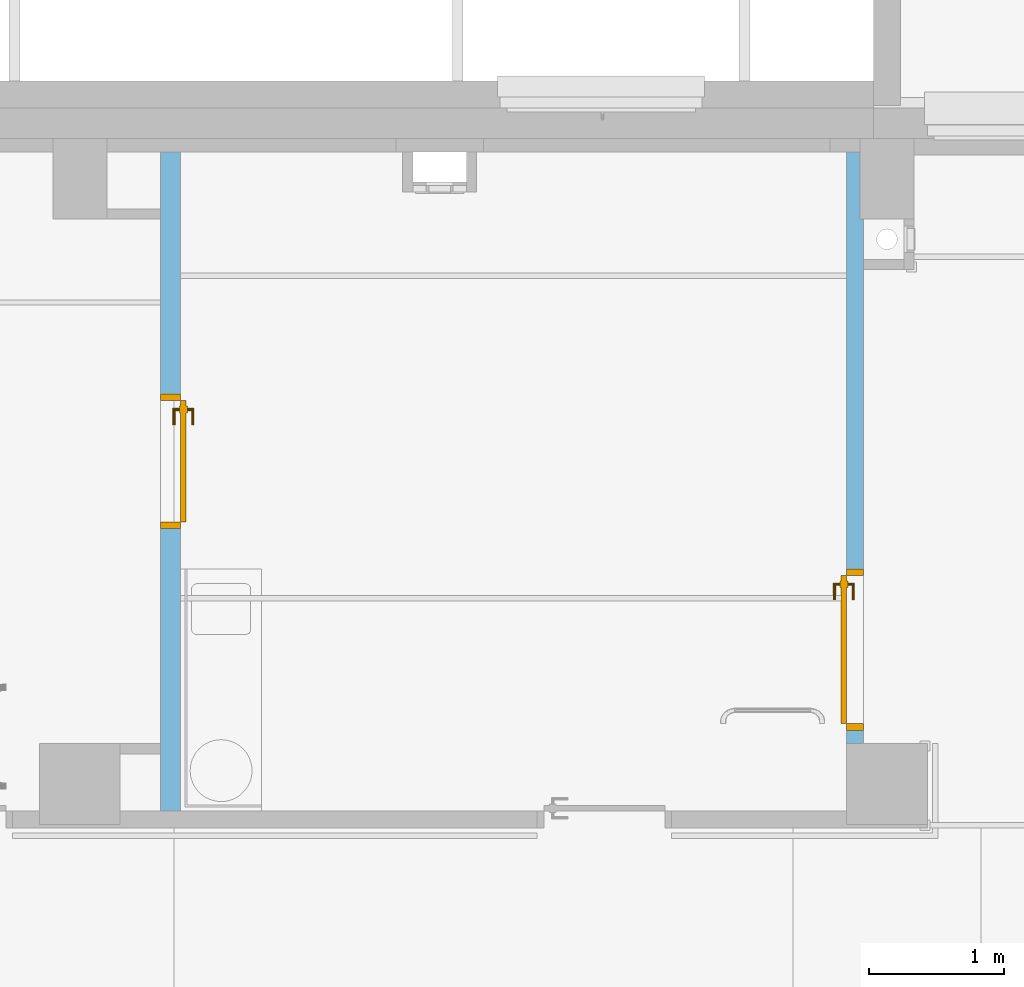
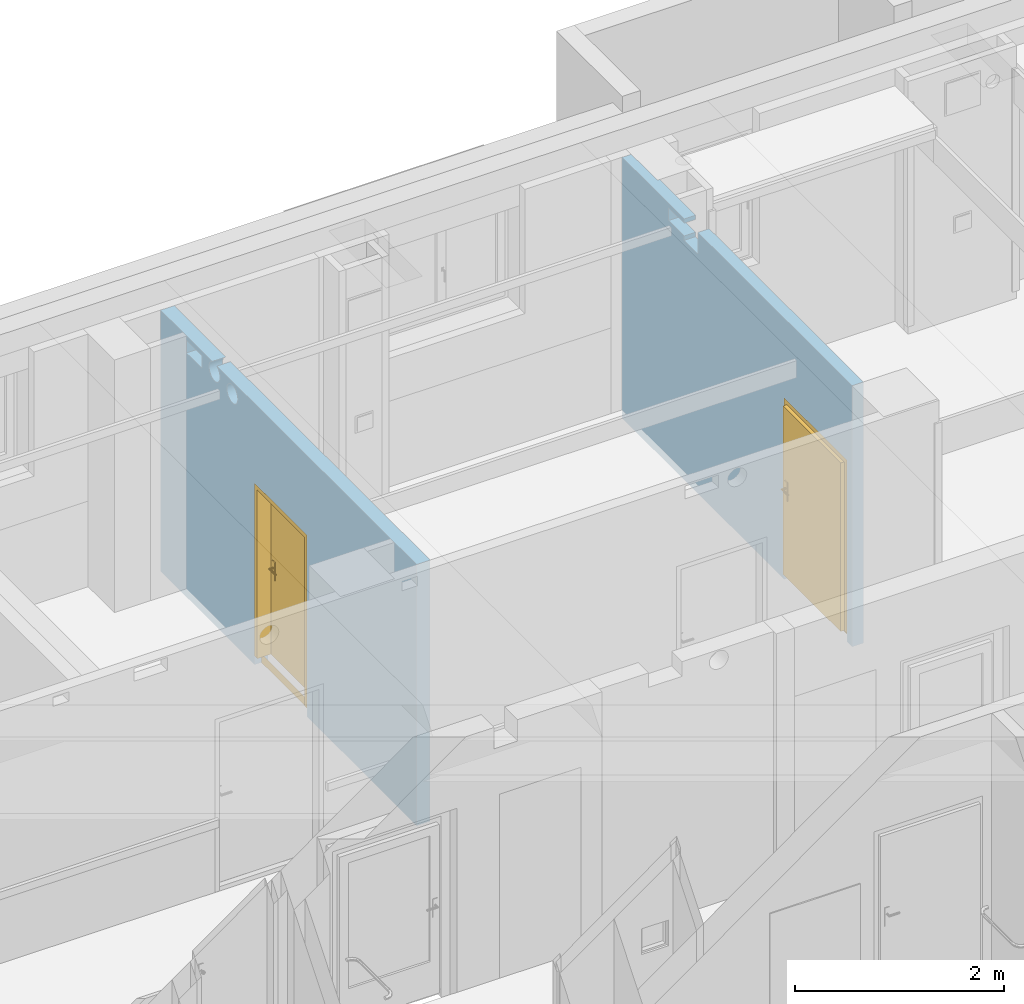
# One storey, part 62 of 84: 2 doors, 8 openings, plus 2 elements that do not belong to this part.
"""IFC4 building model written with IfcOpenShell, lengths in metres."""

from ifc_helpers import new_model, entity, si_unit, converted_unit, derived_unit, frame, frame_2d, origin, origin_with_axes, place, context, subcontext, project, spatial, polyline, rectangle, outline, extrude, closed_shell, open_shell, surface_model, source, transform, mapped, material, layer, layer_set, layer_usage, type_object, element, fill, save


model = new_model("IFC4")

# Units and contexts
model_context = context("Model", 3, precision=1e-05, world=origin())
body_context = subcontext(model_context, "Body", "Model", "MODEL_VIEW")
ifc_project = project(units=[si_unit("LENGTHUNIT", "METRE"), si_unit("AREAUNIT", "SQUARE_METRE"), si_unit("VOLUMEUNIT", "CUBIC_METRE"), si_unit("MASSUNIT", "GRAM", prefix="KILO"), converted_unit("PLANEANGLEUNIT", "DEGREE", entity("IfcPlaneAngleMeasure", 0.0174532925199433), si_unit("PLANEANGLEUNIT", "RADIAN"), dimensions=[0, 0, 0, 0, 0, 0, 0]), derived_unit("THERMALTRANSMITTANCEUNIT", [(si_unit("POWERUNIT", "WATT"), 1), (si_unit("THERMODYNAMICTEMPERATUREUNIT", "KELVIN"), -1), (si_unit("LENGTHUNIT", "METRE"), -2)]), derived_unit("VOLUMETRICFLOWRATEUNIT", [(si_unit("LENGTHUNIT", "METRE"), 3), (converted_unit("TIMEUNIT", "hour", entity("IfcTimeMeasure", 3600.0), si_unit("TIMEUNIT", "SECOND"), dimensions=[0, 0, 1, 0, 0, 0, 0]), -1), (si_unit("LENGTHUNIT", "METRE"), -1)])], contexts=[model_context])

# Site, building, storey
site_placement = place(None, origin())
site = spatial("IfcSite", under=ifc_project, at=site_placement, Name="3. ASŘ", CompositionType="ELEMENT")
building_placement = place(site_placement, origin())
building = spatial("IfcBuilding", under=site, at=building_placement, Name="Pavilon C", CompositionType="ELEMENT")
storey_placement = place(building_placement, frame((0.0, 0.0, -3.3)))
storey = spatial("IfcBuildingStorey", under=building, at=storey_placement, Name="Půdorys 1.PP", CompositionType="ELEMENT", Elevation=-3.3)

# Wall, openings, door
ifc_material_1 = material(Name="SDK - 1 KCE + DVOJITÉ OPLÁŠTĚNÍ")
ifc_layer_1 = layer(ifc_material_1, 0.15)
ifc_layer_set_1 = layer_set([ifc_layer_1])
ifc_layer_usage_1 = layer_usage(ifc_layer_set_1, "AXIS2", "POSITIVE", 0.0)
wall_1_placement = place(storey_placement, frame((6.6, 14.9, -0.1), z_axis=(0.0, 0.0, 1.0), x_axis=(0.0, -1.0, 0.0)))
wall_1 = element("IfcWall", 1, at=wall_1_placement, inside=storey, material=ifc_layer_usage_1, Name="SDK - 1 KCE + DVOJITÉ OPLÁŠTĚNÍ", context=body_context, shape_type="SweptSolid", body=[
    extrude(rectangle(XDim=4.9, YDim=0.15, at=frame_2d((2.45, 0.075), x_axis=(1.0, 0.0))), origin_with_axes(), (0.0, 0.0, 1.0), 3.05),
])
opening_1_placement = place(wall_1_placement, frame((0.794222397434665, 0.15, 2.85), z_axis=(0.0, -1.0, 0.0), x_axis=(0.0, 0.0, 1.0)))
element("IfcOpeningElement", 2, at=opening_1_placement, cuts=wall_1, Name="UT", ObjectType="Opening", context=body_context, shape_type="SweptSolid", body=[
    extrude(outline(polyline([(0.0, 0.3), (0.15, 0.3), (0.15, 0.0), (0.0, 0.0), (0.0, 0.3)])), origin_with_axes(), (0.0, 0.0, 1.0), 0.15),
])
opening_2_placement = place(wall_1_placement, frame((1.13749770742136, 0.15, 2.85), z_axis=(0.0, -1.0, 0.0), x_axis=(0.0, 0.0, 1.0)))
element("IfcOpeningElement", 3, at=opening_2_placement, cuts=wall_1, Name="VZT", ObjectType="Opening", context=body_context, shape_type="SweptSolid", body=[
    extrude(outline(polyline([(0.104999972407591, 0.0), (0.0940244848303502, 0.000575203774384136), (0.0831692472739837, 0.00229450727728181), (0.0725531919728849, 0.00513907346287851), (0.0622926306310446, 0.00907773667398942), (0.052499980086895, 0.0140673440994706), (0.0432825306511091, 0.0200532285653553), (0.0347412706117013, 0.0269698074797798), (0.026969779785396, 0.0347413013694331), (0.0200532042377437, 0.0432825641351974), (0.0140673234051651, 0.0525000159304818), (0.00907771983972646, 0.0622926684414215), (0.0051390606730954, 0.0725532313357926), (0.00229449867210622, 0.0831692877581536), (0.000575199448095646, 0.0940245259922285), (0.0, 0.105000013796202), (0.000575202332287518, 0.11597550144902), (0.00229450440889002, 0.126830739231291), (0.00513906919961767, 0.137446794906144), (0.00907773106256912, 0.147707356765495), (0.0140673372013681, 0.157500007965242), (0.0200532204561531, 0.166717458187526), (0.0269697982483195, 0.175258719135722), (0.0347412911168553, 0.183030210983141), (0.0432825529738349, 0.189946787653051), (0.0525000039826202, 0.195932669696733), (0.0622926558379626, 0.200922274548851), (0.0725532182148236, 0.204860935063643), (0.0831692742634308, 0.207705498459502), (0.0940245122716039, 0.209424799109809), (0.104999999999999, 0.21), (0.115975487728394, 0.209424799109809), (0.126830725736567, 0.207705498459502), (0.137446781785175, 0.204860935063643), (0.147707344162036, 0.200922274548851), (0.157499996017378, 0.195932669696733), (0.166717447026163, 0.189946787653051), (0.175258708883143, 0.183030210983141), (0.183030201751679, 0.175258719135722), (0.189946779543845, 0.166717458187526), (0.19593266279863, 0.157500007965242), (0.200922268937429, 0.147707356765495), (0.20486093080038, 0.137446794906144), (0.207705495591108, 0.126830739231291), (0.209424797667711, 0.11597550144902), (0.209999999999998, 0.105000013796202), (0.209424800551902, 0.0940245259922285), (0.207705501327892, 0.0831692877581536), (0.204860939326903, 0.0725532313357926), (0.200922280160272, 0.0622926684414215), (0.195932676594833, 0.0525000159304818), (0.189946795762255, 0.0432825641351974), (0.183030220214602, 0.0347413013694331), (0.175258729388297, 0.0269698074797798), (0.166717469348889, 0.0200532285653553), (0.157500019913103, 0.0140673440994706), (0.147707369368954, 0.00907773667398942), (0.137446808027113, 0.00513907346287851), (0.126830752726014, 0.00229450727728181), (0.115975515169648, 0.000575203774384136), (0.104999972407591, 0.0)])), origin_with_axes(), (0.0, 0.0, 1.0), 0.15),
])
opening_3_placement = place(wall_1_placement, frame((1.47799075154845, 0.15, 2.8), z_axis=(0.0, -1.0, 0.0), x_axis=(0.0, 0.0, 1.0)))
element("IfcOpeningElement", 4, at=opening_3_placement, cuts=wall_1, Name="VZT", ObjectType="Opening", context=body_context, shape_type="SweptSolid", body=[
    extrude(outline(polyline([(0.104999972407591, 0.0), (0.0940244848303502, 0.000575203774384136), (0.0831692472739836, 0.00229450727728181), (0.0725531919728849, 0.00513907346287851), (0.0622926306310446, 0.00907773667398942), (0.052499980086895, 0.0140673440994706), (0.043282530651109, 0.0200532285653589), (0.0347412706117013, 0.0269698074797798), (0.026969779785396, 0.0347413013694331), (0.0200532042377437, 0.0432825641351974), (0.0140673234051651, 0.0525000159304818), (0.00907771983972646, 0.0622926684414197), (0.0051390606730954, 0.0725532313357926), (0.00229449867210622, 0.0831692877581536), (0.000575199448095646, 0.0940245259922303), (0.0, 0.105000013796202), (0.000575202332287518, 0.11597550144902), (0.00229450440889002, 0.126830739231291), (0.00513906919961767, 0.137446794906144), (0.00907773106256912, 0.147707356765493), (0.0140673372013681, 0.15750000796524), (0.0200532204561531, 0.166717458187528), (0.0269697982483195, 0.175258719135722), (0.0347412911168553, 0.183030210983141), (0.0432825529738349, 0.189946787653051), (0.0525000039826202, 0.195932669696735), (0.0622926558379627, 0.200922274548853), (0.0725532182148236, 0.204860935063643), (0.0831692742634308, 0.207705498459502), (0.0940245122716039, 0.209424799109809), (0.104999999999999, 0.21), (0.115975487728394, 0.209424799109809), (0.126830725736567, 0.207705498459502), (0.137446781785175, 0.204860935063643), (0.147707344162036, 0.200922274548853), (0.157499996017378, 0.195932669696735), (0.166717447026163, 0.189946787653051), (0.175258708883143, 0.183030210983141), (0.183030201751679, 0.175258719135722), (0.189946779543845, 0.166717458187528), (0.19593266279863, 0.15750000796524), (0.200922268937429, 0.147707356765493), (0.20486093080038, 0.137446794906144), (0.207705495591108, 0.126830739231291), (0.209424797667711, 0.11597550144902), (0.209999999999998, 0.105000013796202), (0.209424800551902, 0.0940245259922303), (0.207705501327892, 0.0831692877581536), (0.204860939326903, 0.0725532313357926), (0.200922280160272, 0.0622926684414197), (0.195932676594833, 0.0525000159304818), (0.189946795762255, 0.0432825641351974), (0.183030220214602, 0.0347413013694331), (0.175258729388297, 0.0269698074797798), (0.166717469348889, 0.0200532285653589), (0.157500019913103, 0.0140673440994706), (0.147707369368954, 0.00907773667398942), (0.137446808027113, 0.00513907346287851), (0.126830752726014, 0.00229450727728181), (0.115975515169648, 0.000575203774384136), (0.104999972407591, 0.0)])), origin_with_axes(), (0.0, 0.0, 1.0), 0.15),
])
opening_4_placement = place(wall_1_placement, frame((2.80000000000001, 0.15, 0.0), z_axis=(0.0, -1.0, 0.0), x_axis=(0.0, 0.0, 1.0)))
opening_4 = element("IfcOpeningElement", 5, at=opening_4_placement, cuts=wall_1, Name="Dveřní otvor", ObjectType="Opening", context=body_context, shape_type="SweptSolid", body=[
    extrude(outline(polyline([(0.0, 1.0), (2.12, 1.0), (2.12, 0.0), (0.0, 0.0), (0.0, 1.0)])), origin_with_axes(), (0.0, 0.0, 1.0), 0.15),
])
door_type_1 = type_object("IfcDoorType", Name="I.D005", OperationType="NOTDEFINED", ParameterTakesPrecedence=False, PredefinedType="DOOR")
shared_shape_1 = source(origin_with_axes(), body_context, "Body", "SurfaceModel", [
    surface_model("IfcShellBasedSurfaceModel", [(0.0, 0.075, 0.0), (1.0, 0.075, 0.0), (1.0, 0.075, 0.1), (0.0, 0.075, 0.1)], [open_shell([[[0, 1, 2, 3]]], orient=[[False]])]),
    surface_model("IfcShellBasedSurfaceModel", [(0.0, 0.15, 2.12), (0.0, 0.15, 0.101), (0.05, 0.15, 0.101), (0.05, 0.15, 2.12), (0.0, 0.0, 0.101), (0.0, 2.55795384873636e-16, 2.12), (0.05, 2.55795384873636e-16, 2.12), (0.05, 0.0, 0.101)], [closed_shell([[[0, 1, 2, 3]], [[4, 5, 6, 7]], [[1, 0, 5, 4]], [[2, 1, 4, 7]], [[3, 2, 7, 6]], [[0, 3, 6, 5]]], orient=[[False], [False], [False], [False], [False], [False]])]),
    surface_model("IfcShellBasedSurfaceModel", [(0.95, 0.15, 2.12), (0.95, 0.15, 0.101), (1.0, 0.15, 0.101), (1.0, 0.15, 2.12), (0.95, 0.0, 0.101), (0.95, 2.55795384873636e-16, 2.12), (1.0, 2.55795384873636e-16, 2.12), (1.0, 0.0, 0.101)], [closed_shell([[[0, 1, 2, 3]], [[4, 5, 6, 7]], [[1, 0, 5, 4]], [[2, 1, 4, 7]], [[3, 2, 7, 6]], [[0, 3, 6, 5]]], orient=[[False], [False], [False], [False], [False], [False]])]),
    surface_model("IfcShellBasedSurfaceModel", [(0.05, 0.15, 2.12), (0.05, 0.15, 2.07), (0.95, 0.15, 2.07), (0.95, 0.15, 2.12), (0.05, 2.27373675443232e-16, 2.07), (0.05, 2.27373675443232e-16, 2.12), (0.95, 2.27373675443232e-16, 2.12), (0.95, 2.27373675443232e-16, 2.07)], [closed_shell([[[0, 1, 2, 3]], [[4, 5, 6, 7]], [[1, 0, 5, 4]], [[2, 1, 4, 7]], [[3, 2, 7, 6]], [[0, 3, 6, 5]]], orient=[[False], [False], [False], [False], [False], [False]])]),
    surface_model("IfcShellBasedSurfaceModel", [(0.05, 0.19, 2.07), (0.05, 0.19, 0.101), (0.95, 0.19, 0.101), (0.95, 0.19, 2.07), (0.05, 0.15, 0.101), (0.05, 0.15, 2.07), (0.95, 0.15, 2.07), (0.95, 0.15, 0.101)], [closed_shell([[[0, 1, 2, 3]], [[4, 5, 6, 7]], [[1, 0, 5, 4]], [[2, 1, 4, 7]], [[3, 2, 7, 6]], [[0, 3, 6, 5]]], orient=[[False], [False], [False], [False], [False], [False]])]),
    surface_model("IfcShellBasedSurfaceModel", [(0.09, 0.15, 1.226), (0.09, 0.15, 1.011), (0.14, 0.15, 1.011), (0.14, 0.15, 1.226), (0.09, 0.14, 1.011), (0.09, 0.14, 1.226), (0.14, 0.14, 1.226), (0.14, 0.14, 1.011)], [closed_shell([[[0, 1, 2, 3]], [[4, 5, 6, 7]], [[1, 0, 5, 4]], [[2, 1, 4, 7]], [[3, 2, 7, 6]], [[0, 3, 6, 5]]], orient=[[False], [False], [False], [False], [False], [False]])]),
    surface_model("IfcShellBasedSurfaceModel", [(0.115, 0.14, 1.161), (0.11, 0.14, 1.15966025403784), (0.106339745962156, 0.14, 1.156), (0.105, 0.14, 1.151), (0.106339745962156, 0.14, 1.146), (0.11, 0.14, 1.14233974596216), (0.115, 0.14, 1.141), (0.12, 0.14, 1.14233974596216), (0.123660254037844, 0.14, 1.146), (0.125, 0.14, 1.151), (0.123660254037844, 0.14, 1.156), (0.12, 0.14, 1.15966025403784), (0.115, 0.1, 1.161), (0.11, 0.0950000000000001, 1.15966025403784), (0.106339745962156, 0.0913397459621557, 1.156), (0.105, 0.0900000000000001, 1.151), (0.106339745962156, 0.0913397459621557, 1.146), (0.11, 0.0950000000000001, 1.14233974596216), (0.115, 0.1, 1.141), (0.12, 0.105, 1.14233974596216), (0.123660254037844, 0.108660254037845, 1.146), (0.125, 0.11, 1.151), (0.123660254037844, 0.108660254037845, 1.156), (0.12, 0.105, 1.15966025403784), (0.23, 0.1, 1.161), (0.23, 0.0950000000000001, 1.15966025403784), (0.23, 0.0913397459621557, 1.156), (0.23, 0.0900000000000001, 1.151), (0.23, 0.0913397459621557, 1.146), (0.23, 0.0950000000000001, 1.14233974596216), (0.23, 0.1, 1.141), (0.23, 0.105, 1.14233974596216), (0.23, 0.108660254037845, 1.146), (0.23, 0.11, 1.151), (0.23, 0.108660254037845, 1.156), (0.23, 0.105, 1.15966025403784)], [open_shell([[[0, 1, 2, 3, 4, 5, 6, 7, 8, 9, 10, 11]], [[0, 12, 13, 1]], [[1, 13, 14, 2]], [[2, 14, 15, 3]], [[3, 15, 16, 4]], [[4, 16, 17, 5]], [[5, 17, 18, 6]], [[6, 18, 19, 7]], [[7, 19, 20, 8]], [[8, 20, 21, 9]], [[9, 21, 22, 10]], [[10, 22, 23, 11]], [[11, 23, 12, 0]], [[12, 24, 25, 13]], [[13, 25, 26, 14]], [[14, 26, 27, 15]], [[15, 27, 28, 16]], [[16, 28, 29, 17]], [[17, 29, 30, 18]], [[18, 30, 31, 19]], [[19, 31, 32, 20]], [[20, 32, 33, 21]], [[21, 33, 34, 22]], [[22, 34, 35, 23]], [[23, 35, 24, 12]]], orient=[[False], [False], [False], [False], [False], [False], [False], [False], [False], [False], [False], [False], [False], [False], [False], [False], [False], [False], [False], [False], [False], [False], [False], [False], [False]])]),
    surface_model("IfcShellBasedSurfaceModel", [(0.09, 0.19, 1.226), (0.14, 0.19, 1.226), (0.14, 0.19, 1.011), (0.09, 0.19, 1.011), (0.09, 0.2, 1.011), (0.14, 0.2, 1.011), (0.14, 0.2, 1.226), (0.09, 0.2, 1.226)], [closed_shell([[[0, 1, 2, 3]], [[4, 5, 6, 7]], [[3, 4, 7, 0]], [[2, 5, 4, 3]], [[1, 6, 5, 2]], [[0, 7, 6, 1]]], orient=[[False], [False], [False], [False], [False], [False]])]),
    surface_model("IfcShellBasedSurfaceModel", [(0.115, 0.2, 1.161), (0.12, 0.2, 1.15966025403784), (0.123660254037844, 0.2, 1.156), (0.125, 0.2, 1.151), (0.123660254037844, 0.2, 1.146), (0.12, 0.2, 1.14233974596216), (0.115, 0.2, 1.141), (0.11, 0.2, 1.14233974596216), (0.106339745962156, 0.2, 1.146), (0.105, 0.2, 1.151), (0.106339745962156, 0.2, 1.156), (0.11, 0.2, 1.15966025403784), (0.11, 0.245, 1.15966025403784), (0.115, 0.24, 1.161), (0.106339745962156, 0.248660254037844, 1.156), (0.105, 0.25, 1.151), (0.106339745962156, 0.248660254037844, 1.146), (0.11, 0.245, 1.14233974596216), (0.115, 0.24, 1.141), (0.12, 0.235, 1.14233974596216), (0.123660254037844, 0.231339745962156, 1.146), (0.125, 0.23, 1.151), (0.123660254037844, 0.231339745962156, 1.156), (0.12, 0.235, 1.15966025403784), (0.23, 0.245, 1.15966025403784), (0.23, 0.24, 1.161), (0.23, 0.248660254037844, 1.156), (0.23, 0.25, 1.151), (0.23, 0.248660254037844, 1.146), (0.23, 0.245, 1.14233974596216), (0.23, 0.24, 1.141), (0.23, 0.235, 1.14233974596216), (0.23, 0.231339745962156, 1.146), (0.23, 0.23, 1.151), (0.23, 0.231339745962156, 1.156), (0.23, 0.235, 1.15966025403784)], [open_shell([[[0, 1, 2, 3, 4, 5, 6, 7, 8, 9, 10, 11]], [[0, 11, 12, 13]], [[11, 10, 14, 12]], [[10, 9, 15, 14]], [[9, 8, 16, 15]], [[8, 7, 17, 16]], [[7, 6, 18, 17]], [[6, 5, 19, 18]], [[5, 4, 20, 19]], [[4, 3, 21, 20]], [[3, 2, 22, 21]], [[2, 1, 23, 22]], [[1, 0, 13, 23]], [[13, 12, 24, 25]], [[12, 14, 26, 24]], [[14, 15, 27, 26]], [[15, 16, 28, 27]], [[16, 17, 29, 28]], [[17, 18, 30, 29]], [[18, 19, 31, 30]], [[19, 20, 32, 31]], [[20, 21, 33, 32]], [[21, 22, 34, 33]], [[22, 23, 35, 34]], [[23, 13, 25, 35]]], orient=[[False], [False], [False], [False], [False], [False], [False], [False], [False], [False], [False], [False], [False], [False], [False], [False], [False], [False], [False], [False], [False], [False], [False], [False], [False]])]),
])
door_1_placement = place(opening_4_placement, frame((0.0, 0.999999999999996, 0.150000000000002), z_axis=(1.0, 0.0, 0.0), x_axis=(0.0, -1.0, 2.44929359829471e-16)))
door_1 = element("IfcDoor", 6, at=door_1_placement, inside=storey, type_object=door_type_1, Name="I.D005", OverallHeight=2.12, OverallWidth=1.0, context=body_context, shape_type="MappedRepresentation", body=[
    mapped(shared_shape_1, transform((0.0, 0.0, 0.0), x_axis=(1.0, 0.0, 0.0), y_axis=(0.0, 1.0, 0.0), z_axis=(0.0, 0.0, 1.0), scale=1.0)),
])
fill(opening_4, door_1)

ifc_material_2 = material(Name="SDK - 1 KCE + DVOJITÉ OPLÁŠTĚNÍ")
ifc_layer_2 = layer(ifc_material_2, 0.125)
ifc_layer_set_2 = layer_set([ifc_layer_2])
ifc_layer_usage_2 = layer_usage(ifc_layer_set_2, "AXIS2", "POSITIVE", 0.0)
wall_2_placement = place(storey_placement, frame((11.7, 14.9, -0.1), z_axis=(0.0, 0.0, 1.0), x_axis=(0.0, -1.0, 0.0)))
wall_2 = element("IfcWall", 7, at=wall_2_placement, inside=storey, material=ifc_layer_usage_2, Name="SDK - 1 KCE + DVOJITÉ OPLÁŠTĚNÍ", context=body_context, shape_type="SweptSolid", body=[
    extrude(rectangle(XDim=4.40000000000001, YDim=0.125, at=frame_2d((2.2, 0.0625), x_axis=(1.0, 0.0))), origin_with_axes(), (0.0, 0.0, 1.0), 3.05),
])
opening_5_placement = place(wall_2_placement, frame((4.30000000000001, 0.125, 0.0), z_axis=(0.0, -1.0, 0.0), x_axis=(0.0, 0.0, 1.0)))
opening_5 = element("IfcOpeningElement", 8, at=opening_5_placement, cuts=wall_2, Name="Dveřní otvor", ObjectType="Opening", context=body_context, shape_type="SweptSolid", body=[
    extrude(outline(polyline([(0.0, 1.2), (2.12, 1.2), (2.12, 0.0), (0.0, 0.0), (0.0, 1.2)])), origin_with_axes(), (0.0, 0.0, 1.0), 0.125),
])
opening_6_placement = place(wall_2_placement, frame((0.500000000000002, 0.125, 0.0), z_axis=(0.0, -1.0, 0.0), x_axis=(0.0, 0.0, 1.0)))
element("IfcOpeningElement", 9, at=opening_6_placement, cuts=wall_2, Name="Stěnová nika", ObjectType="Opening", context=body_context, shape_type="SweptSolid", body=[
    extrude(outline(polyline([(0.0, 0.500000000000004), (3.05, 0.500000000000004), (3.05, 0.0), (0.0, 0.0), (0.0, 0.500000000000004)])), origin_with_axes(), (0.0, 0.0, 1.0), 0.025),
])
opening_7_placement = place(wall_2_placement, frame((0.88766091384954, 1.81898940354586e-15, 2.85), z_axis=(0.0, 1.0, 0.0), x_axis=(0.0, 0.0, 1.0)))
element("IfcOpeningElement", 10, at=opening_7_placement, cuts=wall_2, Name="UT", ObjectType="Opening", context=body_context, shape_type="SweptSolid", body=[
    extrude(outline(polyline([(0.0, 0.3), (0.15, 0.3), (0.15, 0.0), (0.0, 0.0), (0.0, 0.3)])), origin_with_axes(), (0.0, 0.0, 1.0), 0.125),
])
opening_8_placement = place(wall_2_placement, frame((1.18766091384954, 0.0, 2.8), z_axis=(0.0, 1.0, 0.0), x_axis=(0.0, 0.0, 1.0)))
element("IfcOpeningElement", 11, at=opening_8_placement, cuts=wall_2, Name="VZT", ObjectType="Opening", context=body_context, shape_type="SweptSolid", body=[
    extrude(outline(polyline([(0.0, 0.26), (0.25, 0.26), (0.25, 0.0), (0.0, 0.0), (0.0, 0.26)])), origin_with_axes(), (0.0, 0.0, 1.0), 0.125),
])
door_type_2 = type_object("IfcDoorType", Name="I.D007", OperationType="NOTDEFINED", ParameterTakesPrecedence=False, PredefinedType="DOOR")
shared_shape_2 = source(origin_with_axes(), body_context, "Body", "SurfaceModel", [
    surface_model("IfcShellBasedSurfaceModel", [(0.0, 0.1625, 0.0), (1.2, 0.1625, 0.0), (1.2, 0.1625, 0.1), (0.0, 0.1625, 0.1)], [open_shell([[[0, 1, 2, 3]]], orient=[[False]])]),
    surface_model("IfcShellBasedSurfaceModel", [(0.0, 0.225, 2.12), (0.0, 0.225, 0.101), (0.05, 0.225, 0.101), (0.05, 0.225, 2.12), (0.0, 0.0999999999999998, 0.101), (0.0, 0.1, 2.12), (0.05, 0.1, 2.12), (0.05, 0.0999999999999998, 0.101)], [closed_shell([[[0, 1, 2, 3]], [[4, 5, 6, 7]], [[1, 0, 5, 4]], [[2, 1, 4, 7]], [[3, 2, 7, 6]], [[0, 3, 6, 5]]], orient=[[False], [False], [False], [False], [False], [False]])]),
    surface_model("IfcShellBasedSurfaceModel", [(1.15, 0.225, 2.12), (1.15, 0.225, 0.101), (1.2, 0.225, 0.101), (1.2, 0.225, 2.12), (1.15, 0.0999999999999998, 0.101), (1.15, 0.1, 2.12), (1.2, 0.1, 2.12), (1.2, 0.0999999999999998, 0.101)], [closed_shell([[[0, 1, 2, 3]], [[4, 5, 6, 7]], [[1, 0, 5, 4]], [[2, 1, 4, 7]], [[3, 2, 7, 6]], [[0, 3, 6, 5]]], orient=[[False], [False], [False], [False], [False], [False]])]),
    surface_model("IfcShellBasedSurfaceModel", [(0.05, 0.225, 2.12), (0.05, 0.225, 2.07), (1.15, 0.225, 2.07), (1.15, 0.225, 2.12), (0.05, 0.1, 2.07), (0.05, 0.1, 2.12), (1.15, 0.1, 2.12), (1.15, 0.1, 2.07)], [closed_shell([[[0, 1, 2, 3]], [[4, 5, 6, 7]], [[1, 0, 5, 4]], [[2, 1, 4, 7]], [[3, 2, 7, 6]], [[0, 3, 6, 5]]], orient=[[False], [False], [False], [False], [False], [False]])]),
    surface_model("IfcShellBasedSurfaceModel", [(0.05, 0.1, 2.07), (0.05, 0.0999999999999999, 0.101), (1.15, 0.0999999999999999, 0.101), (1.15, 0.1, 2.07), (0.05, 0.0599999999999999, 0.101), (0.05, 0.0600000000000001, 2.07), (1.15, 0.0600000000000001, 2.07), (1.15, 0.0599999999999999, 0.101)], [closed_shell([[[0, 1, 2, 3]], [[4, 5, 6, 7]], [[1, 0, 5, 4]], [[2, 1, 4, 7]], [[3, 2, 7, 6]], [[0, 3, 6, 5]]], orient=[[False], [False], [False], [False], [False], [False]])]),
    surface_model("IfcShellBasedSurfaceModel", [(0.09, 0.06, 1.226), (0.09, 0.06, 1.011), (0.14, 0.06, 1.011), (0.14, 0.06, 1.226), (0.09, 0.05, 1.011), (0.09, 0.05, 1.226), (0.14, 0.05, 1.226), (0.14, 0.05, 1.011)], [closed_shell([[[0, 1, 2, 3]], [[4, 5, 6, 7]], [[1, 0, 5, 4]], [[2, 1, 4, 7]], [[3, 2, 7, 6]], [[0, 3, 6, 5]]], orient=[[False], [False], [False], [False], [False], [False]])]),
    surface_model("IfcShellBasedSurfaceModel", [(0.115, 0.05, 1.161), (0.11, 0.05, 1.15966025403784), (0.106339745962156, 0.05, 1.156), (0.105, 0.05, 1.151), (0.106339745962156, 0.05, 1.146), (0.11, 0.05, 1.14233974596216), (0.115, 0.05, 1.141), (0.12, 0.05, 1.14233974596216), (0.123660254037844, 0.05, 1.146), (0.125, 0.05, 1.151), (0.123660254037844, 0.05, 1.156), (0.12, 0.05, 1.15966025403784), (0.115, 0.01, 1.161), (0.11, 0.005, 1.15966025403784), (0.106339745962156, 0.00133974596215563, 1.156), (0.105, 0.0, 1.151), (0.106339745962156, 0.00133974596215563, 1.146), (0.11, 0.005, 1.14233974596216), (0.115, 0.01, 1.141), (0.12, 0.015, 1.14233974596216), (0.123660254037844, 0.0186602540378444, 1.146), (0.125, 0.02, 1.151), (0.123660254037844, 0.0186602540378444, 1.156), (0.12, 0.015, 1.15966025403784), (0.23, 0.01, 1.161), (0.23, 0.005, 1.15966025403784), (0.23, 0.0013397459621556, 1.156), (0.23, 0.0, 1.151), (0.23, 0.0013397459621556, 1.146), (0.23, 0.005, 1.14233974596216), (0.23, 0.01, 1.141), (0.23, 0.015, 1.14233974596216), (0.23, 0.0186602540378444, 1.146), (0.23, 0.02, 1.151), (0.23, 0.0186602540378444, 1.156), (0.23, 0.015, 1.15966025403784)], [open_shell([[[0, 1, 2, 3, 4, 5, 6, 7, 8, 9, 10, 11]], [[0, 12, 13, 1]], [[1, 13, 14, 2]], [[2, 14, 15, 3]], [[3, 15, 16, 4]], [[4, 16, 17, 5]], [[5, 17, 18, 6]], [[6, 18, 19, 7]], [[7, 19, 20, 8]], [[8, 20, 21, 9]], [[9, 21, 22, 10]], [[10, 22, 23, 11]], [[11, 23, 12, 0]], [[12, 24, 25, 13]], [[13, 25, 26, 14]], [[14, 26, 27, 15]], [[15, 27, 28, 16]], [[16, 28, 29, 17]], [[17, 29, 30, 18]], [[18, 30, 31, 19]], [[19, 31, 32, 20]], [[20, 32, 33, 21]], [[21, 33, 34, 22]], [[22, 34, 35, 23]], [[23, 35, 24, 12]]], orient=[[False], [False], [False], [False], [False], [False], [False], [False], [False], [False], [False], [False], [False], [False], [False], [False], [False], [False], [False], [False], [False], [False], [False], [False], [False]])]),
    surface_model("IfcShellBasedSurfaceModel", [(0.09, 0.1, 1.226), (0.14, 0.1, 1.226), (0.14, 0.1, 1.011), (0.09, 0.1, 1.011), (0.09, 0.11, 1.011), (0.14, 0.11, 1.011), (0.14, 0.11, 1.226), (0.09, 0.11, 1.226)], [closed_shell([[[0, 1, 2, 3]], [[4, 5, 6, 7]], [[3, 4, 7, 0]], [[2, 5, 4, 3]], [[1, 6, 5, 2]], [[0, 7, 6, 1]]], orient=[[False], [False], [False], [False], [False], [False]])]),
    surface_model("IfcShellBasedSurfaceModel", [(0.115, 0.11, 1.161), (0.12, 0.11, 1.15966025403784), (0.123660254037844, 0.11, 1.156), (0.125, 0.11, 1.151), (0.123660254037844, 0.11, 1.146), (0.12, 0.11, 1.14233974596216), (0.115, 0.11, 1.141), (0.11, 0.11, 1.14233974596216), (0.106339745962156, 0.11, 1.146), (0.105, 0.11, 1.151), (0.106339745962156, 0.11, 1.156), (0.11, 0.11, 1.15966025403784), (0.11, 0.155, 1.15966025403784), (0.115, 0.15, 1.161), (0.106339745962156, 0.158660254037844, 1.156), (0.105, 0.16, 1.151), (0.106339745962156, 0.158660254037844, 1.146), (0.11, 0.155, 1.14233974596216), (0.115, 0.15, 1.141), (0.12, 0.145, 1.14233974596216), (0.123660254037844, 0.141339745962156, 1.146), (0.125, 0.14, 1.151), (0.123660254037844, 0.141339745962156, 1.156), (0.12, 0.145, 1.15966025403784), (0.23, 0.155, 1.15966025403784), (0.23, 0.15, 1.161), (0.23, 0.158660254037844, 1.156), (0.23, 0.16, 1.151), (0.23, 0.158660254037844, 1.146), (0.23, 0.155, 1.14233974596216), (0.23, 0.15, 1.141), (0.23, 0.145, 1.14233974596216), (0.23, 0.141339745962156, 1.146), (0.23, 0.14, 1.151), (0.23, 0.141339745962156, 1.156), (0.23, 0.145, 1.15966025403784)], [open_shell([[[0, 1, 2, 3, 4, 5, 6, 7, 8, 9, 10, 11]], [[0, 11, 12, 13]], [[11, 10, 14, 12]], [[10, 9, 15, 14]], [[9, 8, 16, 15]], [[8, 7, 17, 16]], [[7, 6, 18, 17]], [[6, 5, 19, 18]], [[5, 4, 20, 19]], [[4, 3, 21, 20]], [[3, 2, 22, 21]], [[2, 1, 23, 22]], [[1, 0, 13, 23]], [[13, 12, 24, 25]], [[12, 14, 26, 24]], [[14, 15, 27, 26]], [[15, 16, 28, 27]], [[16, 17, 29, 28]], [[17, 18, 30, 29]], [[18, 19, 31, 30]], [[19, 20, 32, 31]], [[20, 21, 33, 32]], [[21, 22, 34, 33]], [[22, 23, 35, 34]], [[23, 13, 25, 35]]], orient=[[False], [False], [False], [False], [False], [False], [False], [False], [False], [False], [False], [False], [False], [False], [False], [False], [False], [False], [False], [False], [False], [False], [False], [False], [False]])]),
])
door_2_placement = place(opening_5_placement, frame((0.0, 1.2, 0.225000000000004), z_axis=(1.0, 0.0, 0.0), x_axis=(0.0, -1.0, 2.44929359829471e-16)))
door_2 = element("IfcDoor", 12, at=door_2_placement, inside=storey, type_object=door_type_2, Name="I.D007", OverallHeight=2.12, OverallWidth=1.2, context=body_context, shape_type="MappedRepresentation", body=[
    mapped(shared_shape_2, transform((0.0, 0.0, 0.0), x_axis=(1.0, 0.0, 0.0), y_axis=(0.0, 1.0, 0.0), z_axis=(0.0, 0.0, 1.0), scale=1.0)),
])
fill(opening_5, door_2)

save(model, "model.ifc")
